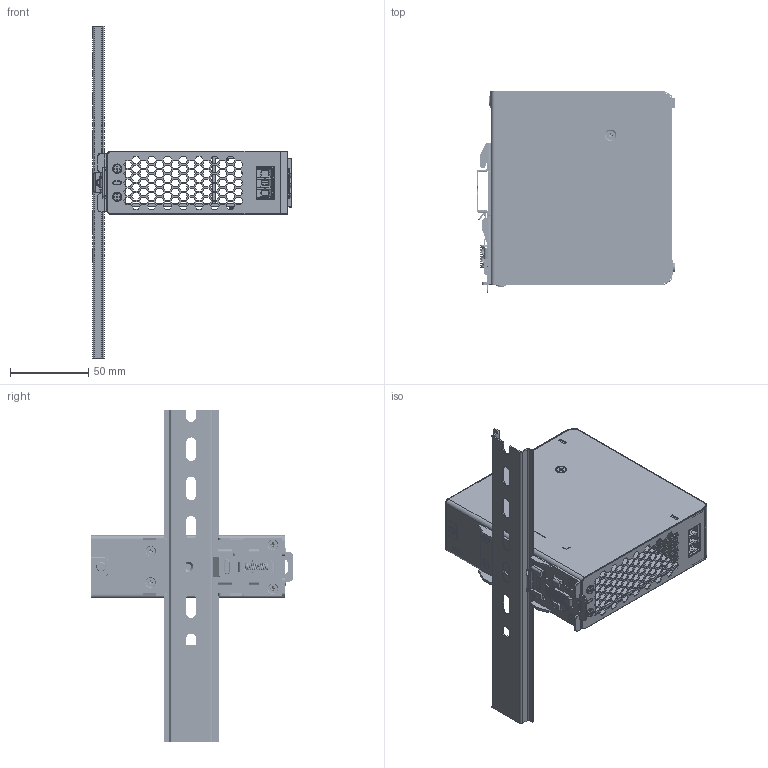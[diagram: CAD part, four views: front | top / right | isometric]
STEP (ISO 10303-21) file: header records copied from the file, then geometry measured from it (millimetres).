
FILE_DESCRIPTION (( 'STEP AP214' ), '1' );
FILE_NAME ('DPSL120W24V.STEP', '2026-04-08T11:41:03', ( '' ), ( '' ), 'SwSTEP 2.0', 'SolidWorks 2022', '' );
FILE_SCHEMA (( 'AUTOMOTIVE_DESIGN' ));
Length unit declared in the file: millimetre
Products named in the file (36): BMB420U103_2_1_AF0.stp; 3105039100_2.stp; MANIFOLD_SOLID_BREP_10531_AF0.stp; BMB420-508MA02_7_1_AF0.stp; DPSL120W24V; BMB420-508MA02_7_1.stp; INSULATOR_CHASSIS.stp; MH150-635M804A302_A4_AF0_6_AF0_ASM.stp; INSULATOR_FRONT.stp; BMB420P201_1_1.stp; 330322440000_CASE-CHASSIS_1_AF0_ASM.stp; ASSEM1_ASM_6_ASM_1_AF0_ASM.stp; BMB420U103_2_1_AF1.stp; 331676930000_CASE_COVER_77_AF0.stp; BMB420P201_1_1_AF0.stp; HS1.stp; MANIFOLD_SOLID_BREP_262609.stp; MB420-508MA02_ASM_4_ASM_1_AF0_ASM.stp; MB420-508MA02_ASM_4_ASM_AF0_ASM.stp; 3100000600-1_10.stp; MANIFOLD_SOLID_BREP_262416_AF0.stp; RAIL.stp; ASSEM1_ASM_6_ASM_1_ASM.stp; MAIN_BOARD.stp; 346202620000_1.stp; MANIFOLD_SOLID_BREP_10925.stp; INSULATOR_COVER.stp; DAUG_OUTPUT.stp; ASSY_BASE_NEW_V2_ASM_10_ASM.stp; BMB420P201_1_1_AF1.stp; BMB420U103_2_1.stp; 346008810000_2.stp; 346654410101_17.stp; DAUG_INPUT.stp; DPSL120W24V.stp; HSK3.stp
Assembly tree (45 placements, depth 6):
  DPSL120W24V
    DPSL120W24V.stp
      330322440000_CASE-CHASSIS_1_AF0_ASM.stp
        MANIFOLD_SOLID_BREP_10531_AF0.stp
        MANIFOLD_SOLID_BREP_10925.stp
      MB420-508MA02_ASM_4_ASM_AF0_ASM.stp
        MB420-508MA02_ASM_4_ASM_1_AF0_ASM.stp
          ASSEM1_ASM_6_ASM_1_ASM.stp  x2
            BMB420-508MA02_7_1.stp
            BMB420U103_2_1.stp
            BMB420P201_1_1.stp
          ASSEM1_ASM_6_ASM_1_AF0_ASM.stp
            BMB420-508MA02_7_1_AF0.stp
            BMB420U103_2_1_AF0.stp
            BMB420U103_2_1_AF1.stp
            BMB420P201_1_1_AF0.stp
            BMB420P201_1_1_AF1.stp
      MH150-635M804A302_A4_AF0_6_AF0_ASM.stp
        MANIFOLD_SOLID_BREP_262416_AF0.stp
        MANIFOLD_SOLID_BREP_262609.stp
      ASSY_BASE_NEW_V2_ASM_10_ASM.stp
        346654410101_17.stp
        346008810000_2.stp
        346202620000_1.stp
      331676930000_CASE_COVER_77_AF0.stp
      MAIN_BOARD.stp
      DAUG_INPUT.stp
      DAUG_OUTPUT.stp
      HSK3.stp
      HS1.stp
      INSULATOR_COVER.stp
      INSULATOR_CHASSIS.stp
      INSULATOR_FRONT.stp
      3100000600-1_10.stp  x6
      3105039100_2.stp  x3
      RAIL.stp
Bounding box: 126.7 x 128.8 x 211.6 mm (x, y, z)
Volume: 121216.9 mm3; surface area: 235723.2 mm2
Topology: 43 solids, 43 shells, 5605 faces, 15330 edges, 9922 vertices
Faces by surface type: plane 3789, cylinder 1025, bspline 585, torus 122, cone 84
Entity records: 175921 total; most frequent: CARTESIAN_POINT 64864, ORIENTED_EDGE 24110, DIRECTION 20165, EDGE_CURVE 12055, VECTOR 9333, LINE 9333, VERTEX_POINT 7855, AXIS2_PLACEMENT_3D 5416
